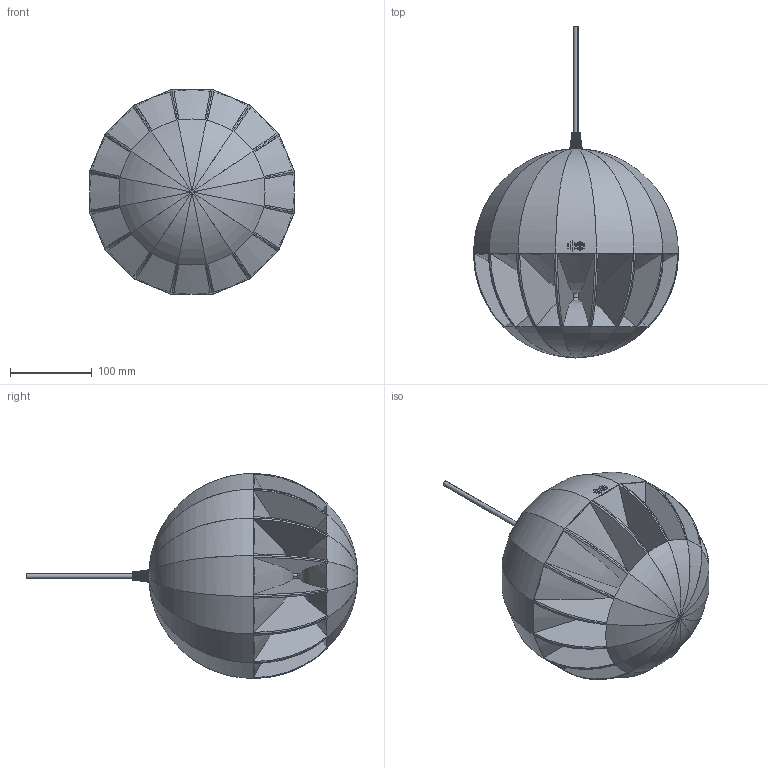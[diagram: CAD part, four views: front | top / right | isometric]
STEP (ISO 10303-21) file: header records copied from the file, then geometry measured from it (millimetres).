
FILE_DESCRIPTION (( 'STEP AP214' ), '1' );
FILE_NAME ('Ïîäâåñíîé ãðîìêîãîâîðèòåëü RPA-6.STEP', '2024-09-28T12:54:22', ( '' ), ( '' ), 'SwSTEP 2.0', 'SolidWorks 2024', '' );
FILE_SCHEMA (( 'AUTOMOTIVE_DESIGN' ));
Length unit declared in the file: millimetre
Products named in the file (6): Кабельный ввод Ad Maiora.SLDPRT; Громкоговоритель RPA-6; Кабельный ввод корпус Ad Maiora; Подвесной громкоговоритель RPA-6; Кабельный ввод крышка Ad Maiora; Кабель
Assembly tree (5 placements, depth 3):
  Подвесной громкоговоритель RPA-6
    Громкоговоритель RPA-6
    Кабельный ввод Ad Maiora.SLDPRT
      Кабельный ввод корпус Ad Maiora
      Кабельный ввод крышка Ad Maiora
    Кабель
Bounding box: 250.1 x 405.32 x 250.1 mm (x, y, z)
Volume: 601281.4 mm3; surface area: 571284.1 mm2
Topology: 4 solids, 5 shells, 495 faces, 1427 edges, 940 vertices
Faces by surface type: plane 147, sphere 130, cylinder 115, bspline 59, torus 30, cone 14
Entity records: 27831 total; most frequent: CARTESIAN_POINT 13622, ORIENTED_EDGE 2854, DIRECTION 1655, EDGE_CURVE 1427, VERTEX_POINT 940, B_SPLINE_CURVE_WITH_KNOTS 832, AXIS2_PLACEMENT_3D 697, EDGE_LOOP 527
